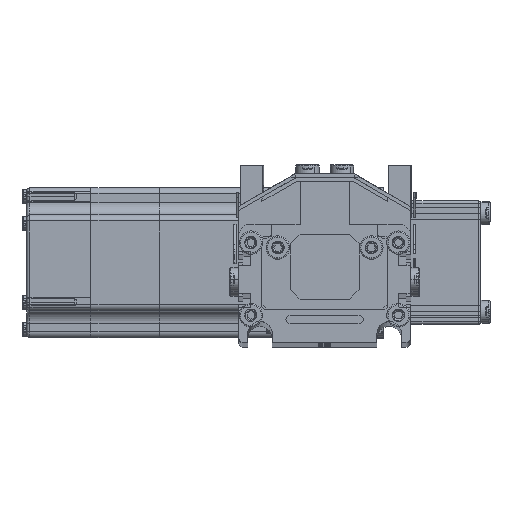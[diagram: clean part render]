
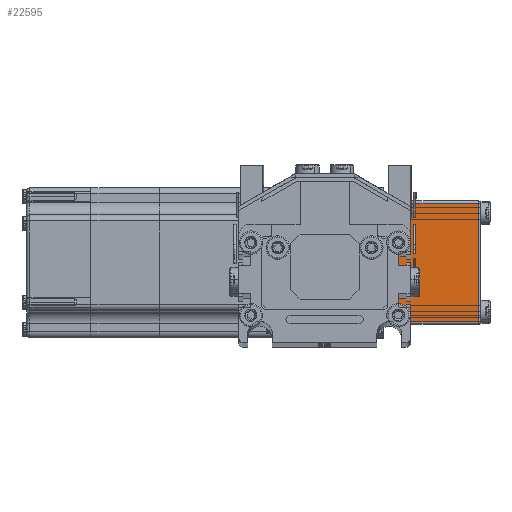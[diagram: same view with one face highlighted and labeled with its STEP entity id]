
A CAD part, top view. The second image highlights one B-rep face of the part: STEP entity #22595.
In plain terms, the highlighted planar face has unit normal (0, 0, 1) as drawn and (-1, 0, 0) by its records, which use the part's own axes.
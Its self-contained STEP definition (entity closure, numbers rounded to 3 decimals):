
#20954 = VERTEX_POINT ( 'NONE', #136403 ) ;
#21911 = EDGE_LOOP ( 'NONE', ( #22758, #22590, #22662, #22660 ) ) ;
#22585 = EDGE_CURVE ( 'NONE', #20954, #22671, #155780, .T. ) ;
#22590 = ORIENTED_EDGE ( 'NONE', *, *, #22597, .T. ) ;
#22595 = ADVANCED_FACE ( 'NONE', ( #156018 ), #156025, .F. ) ;
#22597 = EDGE_CURVE ( 'NONE', #22631, #20954, #140373, .T. ) ;
#22631 = VERTEX_POINT ( 'NONE', #140365 ) ;
#22660 = ORIENTED_EDGE ( 'NONE', *, *, #22667, .T. ) ;
#22662 = ORIENTED_EDGE ( 'NONE', *, *, #22585, .T. ) ;
#22667 = EDGE_CURVE ( 'NONE', #22671, #22771, #140369, .T. ) ;
#22671 = VERTEX_POINT ( 'NONE', #140171 ) ;
#22750 = EDGE_CURVE ( 'NONE', #22771, #22631, #140761, .T. ) ;
#22758 = ORIENTED_EDGE ( 'NONE', *, *, #22750, .T. ) ;
#22771 = VERTEX_POINT ( 'NONE', #140766 ) ;
#136403 = CARTESIAN_POINT ( 'NONE',  ( -50., -24., 38.5 ) ) ;
#140171 = CARTESIAN_POINT ( 'NONE',  ( -50., 24., 38.5 ) ) ;
#140209 = DIRECTION ( 'NONE',  ( 0., 0., 1. ) ) ;
#140340 = CARTESIAN_POINT ( 'NONE',  ( -50., -24., 39.5 ) ) ;
#140365 = CARTESIAN_POINT ( 'NONE',  ( -50., -24., 0. ) ) ;
#140367 = CARTESIAN_POINT ( 'NONE',  ( -50., 24., 39.5 ) ) ;
#140369 = LINE ( 'NONE', #140367, #140515 ) ;
#140373 = LINE ( 'NONE', #140340, #140400 ) ;
#140400 = VECTOR ( 'NONE', #140209, 1000. ) ;
#140514 = DIRECTION ( 'NONE',  ( 0., 0., -1. ) ) ;
#140515 = VECTOR ( 'NONE', #140514, 1000. ) ;
#140758 = DIRECTION ( 'NONE',  ( 0., -1., 0. ) ) ;
#140759 = VECTOR ( 'NONE', #140758, 1000. ) ;
#140760 = CARTESIAN_POINT ( 'NONE',  ( -50., 25., 0. ) ) ;
#140761 = LINE ( 'NONE', #140760, #140759 ) ;
#140766 = CARTESIAN_POINT ( 'NONE',  ( -50., 24., 0. ) ) ;
#155688 = DIRECTION ( 'NONE',  ( 0., 1., 0. ) ) ;
#155689 = VECTOR ( 'NONE', #155688, 1000. ) ;
#155696 = CARTESIAN_POINT ( 'NONE',  ( -50., 25., 38.5 ) ) ;
#155780 = LINE ( 'NONE', #155696, #155689 ) ;
#156010 = DIRECTION ( 'NONE',  ( 0., 1., 0. ) ) ;
#156012 = DIRECTION ( 'NONE',  ( 1., 0., 0. ) ) ;
#156018 = FACE_OUTER_BOUND ( 'NONE', #21911, .T. ) ;
#156025 = PLANE ( 'NONE',  #156028 ) ;
#156028 = AXIS2_PLACEMENT_3D ( 'NONE', #156037, #156012, #156010 ) ;
#156037 = CARTESIAN_POINT ( 'NONE',  ( -50., 25., 39.5 ) ) ;
